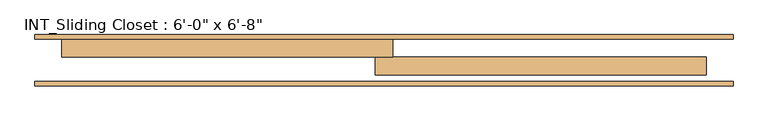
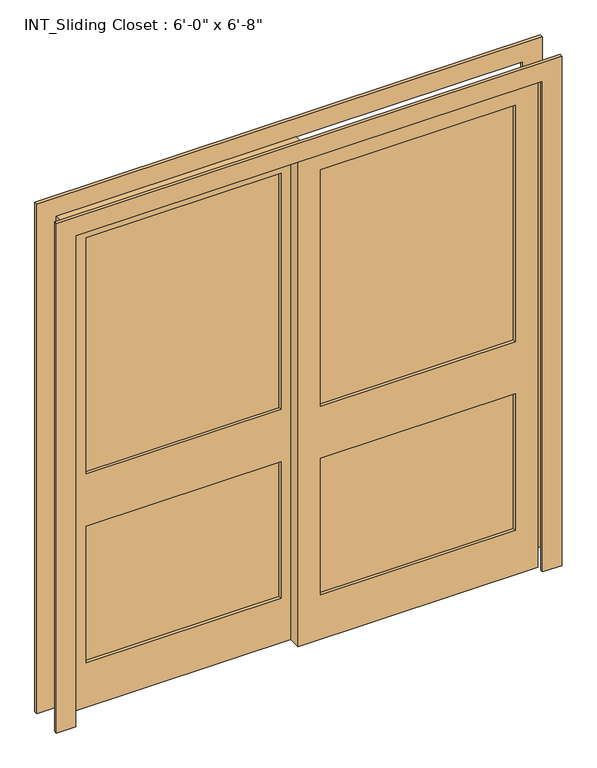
"""IFC4 building model written with IfcOpenShell, lengths in millimetres: door geometry."""

from ifc_helpers import new_model, si_unit, frame, origin, place, context, project, spatial, polyline, outline, extrude, source, transform, mapped, element, save


def door_0a2bcba9(model_context):
    return source(origin(), model_context, "Body", "SweptSolid", [
        extrude(outline(polyline([(-63.5, 149.225), (-825.5, 149.225), (-825.5, 174.625), (-63.5, 174.625), (-63.5, 149.225)])), frame((0.0, 0.0, 965.2), z_axis=(0.0, 0.0, 1.0), x_axis=(1.0, 0.0, 0.0)), (0.0, 0.0, 1.0), 977.9),
        extrude(outline(polyline([(-63.5, 149.225), (-825.5, 149.225), (-825.5, 174.625), (-63.5, 174.625), (-63.5, 149.225)])), frame((0.0, 0.0, 184.15), z_axis=(0.0, 0.0, 1.0), x_axis=(1.0, 0.0, 0.0)), (0.0, 0.0, 1.0), 565.15),
        extrude(outline(polyline([(63.5, 123.825), (825.5, 123.825), (825.5, 98.425), (63.5, 98.425), (63.5, 123.825)])), frame((0.0, 0.0, 965.2), z_axis=(0.0, 0.0, 1.0), x_axis=(1.0, 0.0, 0.0)), (0.0, 0.0, 1.0), 977.9),
        extrude(outline(polyline([(63.5, 123.825), (825.5, 123.825), (825.5, 98.425), (63.5, 98.425), (63.5, 123.825)])), frame((0.0, 0.0, 184.15), z_axis=(0.0, 0.0, 1.0), x_axis=(1.0, 0.0, 0.0)), (0.0, 0.0, 1.0), 565.15),
        extrude(outline(polyline([(2032.0, 25.4), (2032.0, -914.4), (0.0, -914.4), (0.0, 25.4), (2032.0, 25.4)]), holes=[polyline([(184.15, -825.5), (749.3, -825.5), (749.3, -63.5), (184.15, -63.5), (184.15, -825.5)]), polyline([(965.2, -825.5), (1943.1, -825.5), (1943.1, -63.5), (965.2, -63.5), (965.2, -825.5)])]), frame((0.0, 136.525, 0.0), z_axis=(0.0, 1.0, 0.0), x_axis=(0.0, 0.0, 1.0)), (0.0, 0.0, 1.0), 50.8),
        extrude(outline(polyline([(0.0, -990.6), (0.0, -914.4), (2032.0, -914.4), (2032.0, 914.4), (0.0, 914.4), (0.0, 990.6), (2108.2, 990.6), (2108.2, -990.6), (0.0, -990.6)])), frame((0.0, 53.975, 0.0), z_axis=(0.0, 1.0, 0.0), x_axis=(0.0, 0.0, 1.0)), (0.0, 0.0, 1.0), 12.7),
        extrude(outline(polyline([(0.0, 990.6), (2108.2, 990.6), (2108.2, -990.6), (0.0, -990.6), (0.0, -914.4), (2032.0, -914.4), (2032.0, 914.4), (0.0, 914.4), (0.0, 990.6)])), frame((0.0, 187.325, 0.0), z_axis=(0.0, 1.0, 0.0), x_axis=(0.0, 0.0, 1.0)), (0.0, 0.0, 1.0), 12.7),
        extrude(outline(polyline([(2032.0, -25.4), (0.0, -25.4), (0.0, 914.4), (2032.0, 914.4), (2032.0, -25.4)]), holes=[polyline([(965.2, 825.5), (965.2, 63.5), (1943.1, 63.5), (1943.1, 825.5), (965.2, 825.5)]), polyline([(184.15, 825.5), (184.15, 63.5), (749.3, 63.5), (749.3, 825.5), (184.15, 825.5)])]), frame((0.0, 85.725, 0.0), z_axis=(0.0, 1.0, 0.0), x_axis=(0.0, 0.0, 1.0)), (0.0, 0.0, 1.0), 50.8),
    ])


if __name__ == "__main__":
    model = new_model("IFC4")
    model_context = context("Model", 3, world=origin())
    ifc_project = project(units=[si_unit("LENGTHUNIT", "METRE", prefix="MILLI")], contexts=[model_context])
    site = spatial("IfcSite", under=ifc_project)
    building = spatial("IfcBuilding", under=site)
    placement = place(None, origin())
    door_shape = door_0a2bcba9(model_context)
    element("IfcDoor", 1, ObjectType="INT_Sliding Closet : 6'-0\" x 6'-8\"", at=placement, inside=building, context=model_context, shape_type="MappedRepresentation", body=[
        mapped(door_shape, transform((0.0, 0.0, 0.0), x_axis=(1.0, 0.0, 0.0), y_axis=(0.0, 1.0, 0.0), z_axis=(0.0, 0.0, 1.0))),
    ])
    save(model, "model.ifc")
